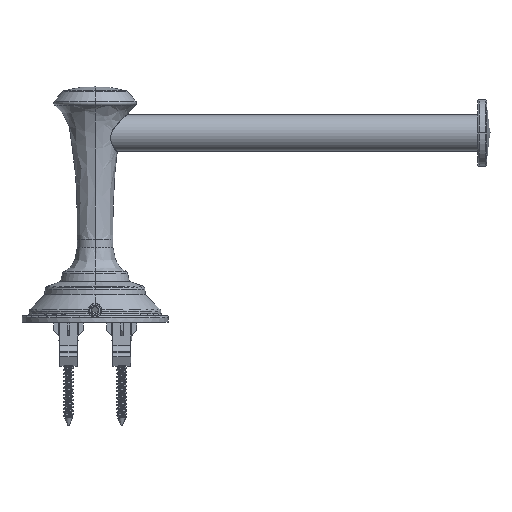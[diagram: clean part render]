
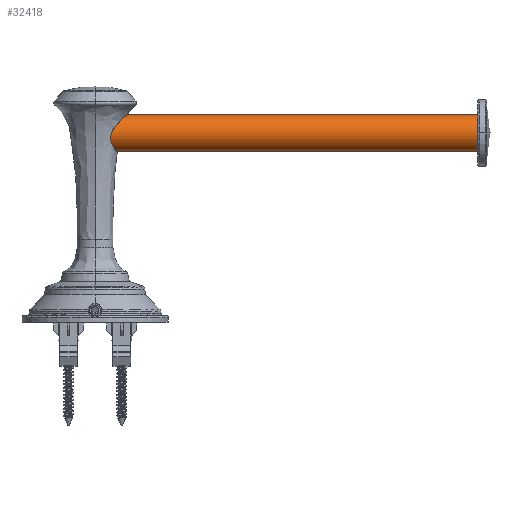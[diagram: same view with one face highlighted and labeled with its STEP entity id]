
A CAD part, front view. The second image highlights one B-rep face of the part: STEP entity #32418.
In plain terms, the highlighted cylindrical face has radius 7 mm (diameter 14 mm), a partial arc.
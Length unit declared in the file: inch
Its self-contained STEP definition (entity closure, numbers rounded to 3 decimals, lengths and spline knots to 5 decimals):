
#2007 = DIRECTION ( 'NONE',  ( -1., 0., 0. ) ) ;
#2869 = DIRECTION ( 'NONE',  ( -1., 0., 0. ) ) ;
#3873 = CARTESIAN_POINT ( 'NONE',  ( 5.75984, 0., 3.12309 ) ) ;
#5018 = EDGE_CURVE ( 'NONE', #10619, #23060, #19952, .T. ) ;
#5327 = CARTESIAN_POINT ( 'NONE',  ( -0.19685, 0., 3.12309 ) ) ;
#5690 = ORIENTED_EDGE ( 'NONE', *, *, #10552, .T. ) ;
#5844 = AXIS2_PLACEMENT_3D ( 'NONE', #10625, #2007, #22452 ) ;
#8083 = DIRECTION ( 'NONE',  ( -1., 0., 0. ) ) ;
#8787 = CARTESIAN_POINT ( 'NONE',  ( -0.19685, 0., 2.57191 ) ) ;
#10552 = EDGE_CURVE ( 'NONE', #26985, #11853, #27111, .T. ) ;
#10619 = VERTEX_POINT ( 'NONE', #16625 ) ;
#10625 = CARTESIAN_POINT ( 'NONE',  ( -0.19685, 0., 2.8475 ) ) ;
#10924 = VECTOR ( 'NONE', #2869, 39.37008 ) ;
#11853 = VERTEX_POINT ( 'NONE', #5327 ) ;
#13528 = CARTESIAN_POINT ( 'NONE',  ( 5.75984, 0., 3.12309 ) ) ;
#15335 = EDGE_CURVE ( 'NONE', #23060, #11853, #32142, .T. ) ;
#16587 = EDGE_LOOP ( 'NONE', ( #5690, #24512, #30440, #30989 ) ) ;
#16625 = CARTESIAN_POINT ( 'NONE',  ( 5.75984, 0., 2.57191 ) ) ;
#17140 = CARTESIAN_POINT ( 'NONE',  ( 5.75984, 0., 2.57191 ) ) ;
#18714 = CARTESIAN_POINT ( 'NONE',  ( 5.75984, 0., 2.8475 ) ) ;
#19543 = DIRECTION ( 'NONE',  ( 0., 0., -1. ) ) ;
#19952 = LINE ( 'NONE', #17140, #10924 ) ;
#20912 = VECTOR ( 'NONE', #21319, 39.37008 ) ;
#20953 = DIRECTION ( 'NONE',  ( 0., 0., -1. ) ) ;
#21140 = DIRECTION ( 'NONE',  ( -1., 0., 0. ) ) ;
#21319 = DIRECTION ( 'NONE',  ( -1., 0., 0. ) ) ;
#21744 = EDGE_CURVE ( 'NONE', #10619, #26985, #36444, .T. ) ;
#22342 = FACE_OUTER_BOUND ( 'NONE', #16587, .T. ) ;
#22452 = DIRECTION ( 'NONE',  ( 0., 0., -1. ) ) ;
#23060 = VERTEX_POINT ( 'NONE', #8787 ) ;
#24512 = ORIENTED_EDGE ( 'NONE', *, *, #15335, .F. ) ;
#25719 = AXIS2_PLACEMENT_3D ( 'NONE', #33758, #8083, #19543 ) ;
#26985 = VERTEX_POINT ( 'NONE', #13528 ) ;
#27111 = LINE ( 'NONE', #3873, #20912 ) ;
#29860 = AXIS2_PLACEMENT_3D ( 'NONE', #18714, #21140, #20953 ) ;
#30440 = ORIENTED_EDGE ( 'NONE', *, *, #5018, .F. ) ;
#30989 = ORIENTED_EDGE ( 'NONE', *, *, #21744, .T. ) ;
#32142 = CIRCLE ( 'NONE', #5844, 0.27559 ) ;
#32418 = ADVANCED_FACE ( 'NONE', ( #22342 ), #36950, .T. ) ;
#33758 = CARTESIAN_POINT ( 'NONE',  ( 5.75984, 0., 2.8475 ) ) ;
#36444 = CIRCLE ( 'NONE', #29860, 0.27559 ) ;
#36950 = CYLINDRICAL_SURFACE ( 'NONE', #25719, 0.27559 ) ;
